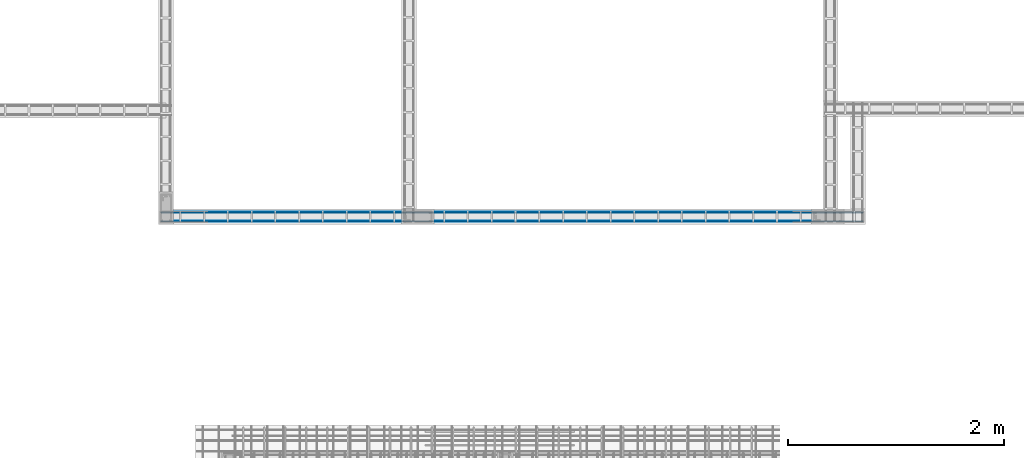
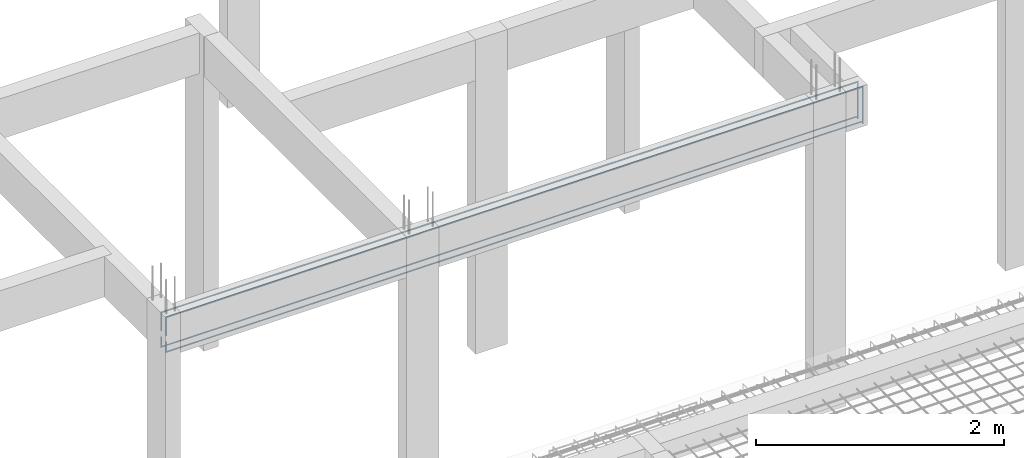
# One storey, part 46 of 236: 4 reinforcing bars.
"""IFC4 building model written with IfcOpenShell, lengths in centimetres."""

from ifc_helpers import new_model, entity, si_unit, derived_unit, frame, origin_with_axes, place, context, project, spatial, element, save


model = new_model("IFC4")

# Units and contexts
model_context = context("Model", 3, precision=1e-05, world=origin_with_axes(), identifier="Body")
ifc_project = project(units=[si_unit("LENGTHUNIT", "METRE", prefix="CENTI"), si_unit("VOLUMEUNIT", "CUBIC_METRE"), si_unit("AREAUNIT", "SQUARE_METRE"), si_unit("POWERUNIT", "WATT"), si_unit("LUMINOUSFLUXUNIT", "LUMEN"), si_unit("ELECTRICCURRENTUNIT", "AMPERE"), si_unit("PRESSUREUNIT", "PASCAL", prefix="KILO"), si_unit("MASSUNIT", "GRAM", prefix="KILO"), si_unit("PLANEANGLEUNIT", "RADIAN"), derived_unit("VOLUMETRICFLOWRATEUNIT", [(si_unit("LENGTHUNIT", "METRE"), 3), (si_unit("TIMEUNIT", "SECOND"), -1)])], contexts=[model_context])

# Site, building, storey
site_placement = place(None, frame((-4000.0, 0.0, 0.0), z_axis=(0.0, 0.0, 1.0), x_axis=(1.0, 0.0, 0.0)))
site = spatial("IfcSite", under=ifc_project, at=site_placement, Name="PADRÃO")
building_placement = place(site_placement, frame((0.0, 0.0, -14.0)))
building = spatial("IfcBuilding", under=site, at=building_placement, Name="CRECHE PRÉ-ESCOLA TIPO 2")
placement_1 = place(building_placement, origin_with_axes())
placement_2 = place(placement_1, frame((0.0, 0.0, 30.0), z_axis=(0.0, 0.0, 1.0), x_axis=(1.0, 0.0, 0.0)))
storey_placement = place(placement_2, frame((0.0, 0.0, 310.0), z_axis=(0.0, 0.0, 1.0), x_axis=(1.0, 0.0, 0.0)))
storey = spatial("IfcBuildingStorey", under=building, at=storey_placement, Name="TERREO", CompositionType="ELEMENT", Elevation=326.0)

# Reinforcing bars
for number, where, z_axis, x_axis, name in (
    (1, (2843.74, 419.11, -14.8022873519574), (0.0, 0.0, 1.0), (1.0, 0.0, 0.0), "V258 - Longitudinal inferior"),
    (2, (2843.74, 410.91, -14.8022873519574), (0.0, 0.0, 1.0), (1.0, 0.0, 0.0), "V258 - Longitudinal inferior"),
):
    element("IfcReinforcingBar", number, at=place(storey_placement, frame(where, z_axis=z_axis, x_axis=x_axis)), inside=storey, Name=name, BarLength=0.0, CrossSectionArea=5.0265482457e-05, NominalDiameter=0.8, PredefinedType="MAIN", context=model_context, shape_type="AdvancedSweptSolid", body=[
        entity("IfcSweptDiskSolid", entity("IfcCompositeCurve", [entity("IfcCompositeCurveSegment", "CONTINUOUS", True, entity("IfcPolyline", [entity("IfcCartesianPoint", [-324.84, 0.0, -12.2977126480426]), entity("IfcCartesianPoint", [-324.84, 0.0, -22.2977126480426])])), entity("IfcCompositeCurveSegment", "CONTINUOUS", True, entity("IfcPolyline", [entity("IfcCartesianPoint", [-324.84, 0.0, -22.2977126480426]), entity("IfcCartesianPoint", [324.84, 0.0, -22.2977126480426])])), entity("IfcCompositeCurveSegment", "CONTINUOUS", True, entity("IfcPolyline", [entity("IfcCartesianPoint", [324.84, 0.0, -22.2977126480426]), entity("IfcCartesianPoint", [324.84, 0.0, 0.0])]))], False), 0.4),
    ])
for number, where, z_axis, x_axis, name in (
    (3, (2843.74, 411.01, -2.49531217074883), (0.0, 0.0, 1.0), (1.0, 0.0, 0.0), "V258 - Longitudinal superior"),
    (4, (2843.74, 419.01, -2.49531217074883), (0.0, 0.0, 1.0), (1.0, 0.0, 0.0), "V258 - Longitudinal superior"),
):
    element("IfcReinforcingBar", number, at=place(storey_placement, frame(where, z_axis=z_axis, x_axis=x_axis)), inside=storey, Name=name, BarLength=0.0, CrossSectionArea=7.853981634e-05, NominalDiameter=1.0, PredefinedType="MAIN", context=model_context, shape_type="AdvancedSweptSolid", body=[
        entity("IfcSweptDiskSolid", entity("IfcCompositeCurve", [entity("IfcCompositeCurveSegment", "CONTINUOUS", True, entity("IfcPolyline", [entity("IfcCartesianPoint", [-324.74, 0.0, -18.3428579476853]), entity("IfcCartesianPoint", [-324.74, 0.0, -0.504687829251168])])), entity("IfcCompositeCurveSegment", "CONTINUOUS", True, entity("IfcPolyline", [entity("IfcCartesianPoint", [-324.74, 0.0, -0.504687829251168]), entity("IfcCartesianPoint", [324.74, 0.0, -0.504687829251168])])), entity("IfcCompositeCurveSegment", "CONTINUOUS", True, entity("IfcPolyline", [entity("IfcCartesianPoint", [324.74, 0.0, -0.504687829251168]), entity("IfcCartesianPoint", [324.74, 0.0, -36.5046878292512])]))], False), 0.5),
    ])

save(model, "model.ifc")
